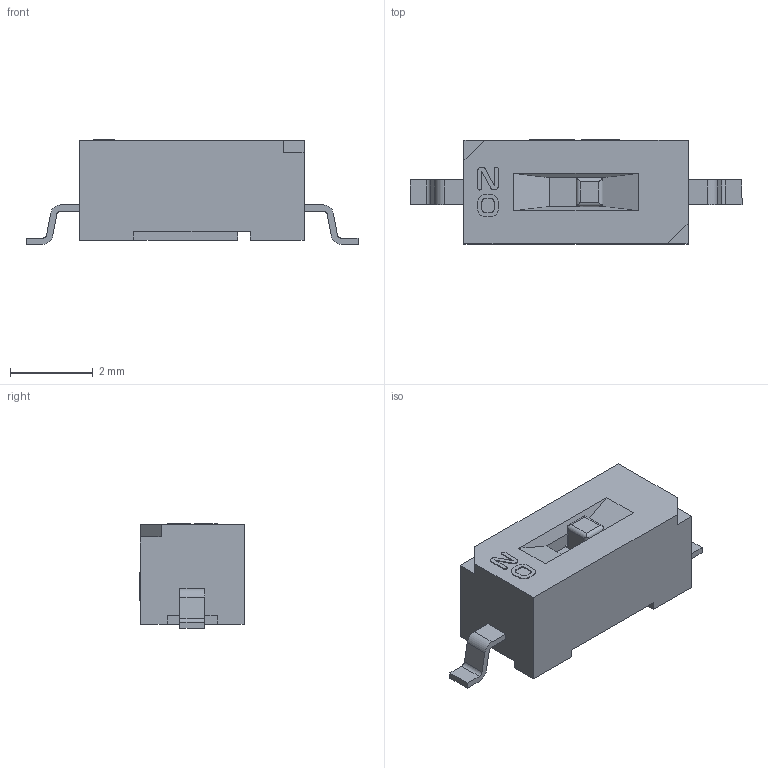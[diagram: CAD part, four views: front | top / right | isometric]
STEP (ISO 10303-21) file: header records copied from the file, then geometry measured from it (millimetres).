
FILE_DESCRIPTION (( 'STEP AP214' ), '1' );
FILE_NAME ('SW-SMD_NIDEC_CHS-01B1.STEP', '2022-12-15T13:04:37', ( '' ), ( '' ), 'SwSTEP 2.0', 'SolidWorks 2020', '' );
FILE_SCHEMA (( 'AUTOMOTIVE_DESIGN' ));
Length unit declared in the file: millimetre
Products named in the file (1): SW-SMD_NIDEC_CHS-01B1
Bounding box: 8 x 2.51 x 2.52 mm (x, y, z)
Volume: 30.8 mm3; surface area: 76.9 mm2
Topology: 2 solids, 2 shells, 332 faces, 905 edges, 602 vertices
Faces by surface type: plane 206, bspline 98, cylinder 28
Entity records: 14608 total; most frequent: CARTESIAN_POINT 3182, ORIENTED_EDGE 1810, DIRECTION 1207, EDGE_CURVE 905, VECTOR 649, LINE 649, VERTEX_POINT 602, EDGE_LOOP 357
